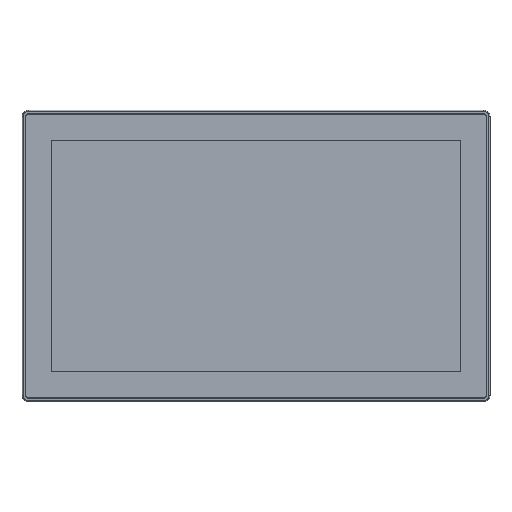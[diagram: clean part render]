
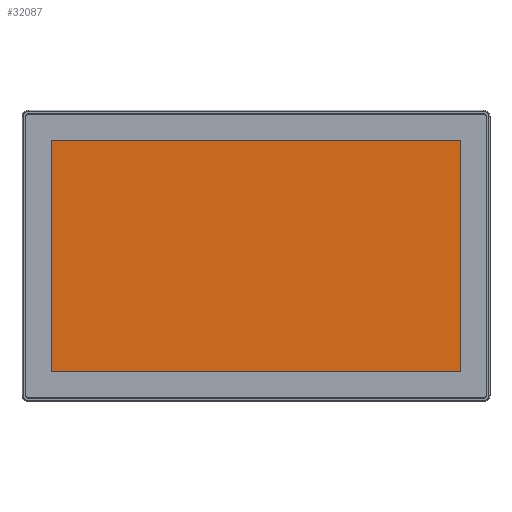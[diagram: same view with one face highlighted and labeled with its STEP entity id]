
A CAD part, top view. The second image highlights one B-rep face of the part: STEP entity #32087.
In plain terms, the highlighted planar face has unit normal (0, 0, 1).
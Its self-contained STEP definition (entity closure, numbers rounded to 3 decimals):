
#6139 = FACE_OUTER_BOUND ( 'NONE', #40802, .T. ) ;
#6504 = VECTOR ( 'NONE', #73778, 1000. ) ;
#10152 = CARTESIAN_POINT ( 'NONE',  ( -172.6, -97.3, -0.05 ) ) ;
#10241 = CARTESIAN_POINT ( 'NONE',  ( 172.6, -97.3, -0.05 ) ) ;
#12361 = VECTOR ( 'NONE', #66335, 1000. ) ;
#16260 = DIRECTION ( 'NONE',  ( 1., 0., 0. ) ) ;
#17350 = EDGE_CURVE ( 'NONE', #82203, #71649, #65963, .T. ) ;
#21472 = EDGE_CURVE ( 'NONE', #30709, #82203, #75421, .T. ) ;
#28781 = DIRECTION ( 'NONE',  ( -1., 0., 0. ) ) ;
#30709 = VERTEX_POINT ( 'NONE', #72637 ) ;
#32087 = ADVANCED_FACE ( 'NONE', ( #6139 ), #76612, .T. ) ;
#33357 = CARTESIAN_POINT ( 'NONE',  ( 172.6, 97.3, -0.05 ) ) ;
#34452 = CARTESIAN_POINT ( 'NONE',  ( -172.6, -97.3, -0.05 ) ) ;
#40301 = LINE ( 'NONE', #46320, #6504 ) ;
#40802 = EDGE_LOOP ( 'NONE', ( #52928, #74738, #52386, #67147 ) ) ;
#40815 = EDGE_CURVE ( 'NONE', #71649, #54379, #62832, .T. ) ;
#42030 = AXIS2_PLACEMENT_3D ( 'NONE', #77968, #62295, #28781 ) ;
#46320 = CARTESIAN_POINT ( 'NONE',  ( 172.6, 97.3, -0.05 ) ) ;
#50673 = CARTESIAN_POINT ( 'NONE',  ( 172.6, -97.3, -0.05 ) ) ;
#52386 = ORIENTED_EDGE ( 'NONE', *, *, #21472, .T. ) ;
#52928 = ORIENTED_EDGE ( 'NONE', *, *, #40815, .T. ) ;
#54379 = VERTEX_POINT ( 'NONE', #33357 ) ;
#55802 = VECTOR ( 'NONE', #84547, 1000. ) ;
#62119 = CARTESIAN_POINT ( 'NONE',  ( 172.6, -97.3, -0.05 ) ) ;
#62295 = DIRECTION ( 'NONE',  ( 0., 0., 1. ) ) ;
#62832 = LINE ( 'NONE', #50673, #55802 ) ;
#65963 = LINE ( 'NONE', #10241, #79570 ) ;
#66335 = DIRECTION ( 'NONE',  ( 0., -1., 0. ) ) ;
#67147 = ORIENTED_EDGE ( 'NONE', *, *, #17350, .T. ) ;
#67772 = EDGE_CURVE ( 'NONE', #54379, #30709, #40301, .T. ) ;
#71649 = VERTEX_POINT ( 'NONE', #62119 ) ;
#72637 = CARTESIAN_POINT ( 'NONE',  ( -172.6, 97.3, -0.05 ) ) ;
#73778 = DIRECTION ( 'NONE',  ( -1., 0., 0. ) ) ;
#74738 = ORIENTED_EDGE ( 'NONE', *, *, #67772, .T. ) ;
#75421 = LINE ( 'NONE', #10152, #12361 ) ;
#76612 = PLANE ( 'NONE',  #42030 ) ;
#77968 = CARTESIAN_POINT ( 'NONE',  ( 0., 0., -0.05 ) ) ;
#79570 = VECTOR ( 'NONE', #16260, 1000. ) ;
#82203 = VERTEX_POINT ( 'NONE', #34452 ) ;
#84547 = DIRECTION ( 'NONE',  ( 0., 1., 0. ) ) ;
